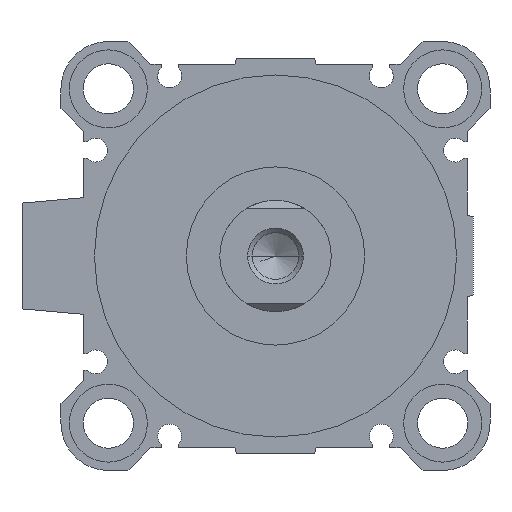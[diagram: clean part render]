
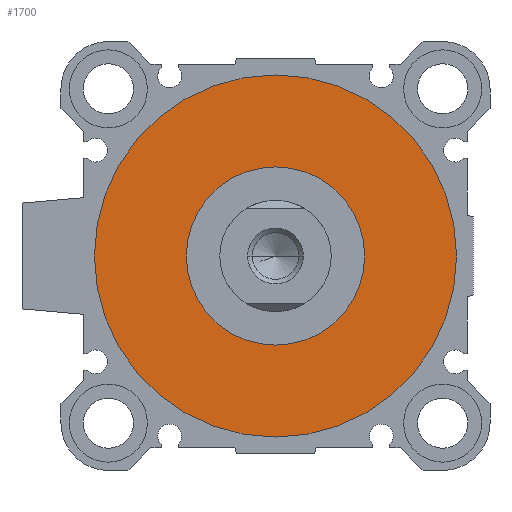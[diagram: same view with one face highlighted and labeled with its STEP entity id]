
A CAD part, left-side view. The second image highlights one B-rep face of the part: STEP entity #1700.
In plain terms, the highlighted planar face has unit normal (-1, 0, 0).
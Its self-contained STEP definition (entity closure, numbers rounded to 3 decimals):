
#52 = VERTEX_POINT ( 'NONE', #5285 ) ;
#53 = CARTESIAN_POINT ( 'NONE',  ( 4., 0., 16. ) ) ;
#130 = DIRECTION ( 'NONE',  ( 1., 0., 0. ) ) ;
#134 = EDGE_CURVE ( 'NONE', #2482, #2198, #4401, .T. ) ;
#224 = ORIENTED_EDGE ( 'NONE', *, *, #2374, .T. ) ;
#445 = CIRCLE ( 'NONE', #1141, 16. ) ;
#535 = CARTESIAN_POINT ( 'NONE',  ( 4., 0., 0. ) ) ;
#661 = VERTEX_POINT ( 'NONE', #3072 ) ;
#732 = DIRECTION ( 'NONE',  ( 1., 0., 0. ) ) ;
#1141 = AXIS2_PLACEMENT_3D ( 'NONE', #3653, #1557, #4974 ) ;
#1253 = CARTESIAN_POINT ( 'NONE',  ( 4., 0., 0. ) ) ;
#1369 = CARTESIAN_POINT ( 'NONE',  ( 4., 0., -16. ) ) ;
#1377 = EDGE_CURVE ( 'NONE', #661, #52, #3705, .T. ) ;
#1557 = DIRECTION ( 'NONE',  ( 1., 0., 0. ) ) ;
#1700 = ADVANCED_FACE ( 'NONE', ( #3830, #5095 ), #4739, .F. ) ;
#1756 = CARTESIAN_POINT ( 'NONE',  ( 4., 0., 0. ) ) ;
#1949 = ORIENTED_EDGE ( 'NONE', *, *, #134, .T. ) ;
#2198 = VERTEX_POINT ( 'NONE', #1369 ) ;
#2368 = CARTESIAN_POINT ( 'NONE',  ( 4., 0., 0. ) ) ;
#2374 = EDGE_CURVE ( 'NONE', #2198, #2482, #445, .T. ) ;
#2482 = VERTEX_POINT ( 'NONE', #53 ) ;
#2558 = DIRECTION ( 'NONE',  ( 0., 1., 0. ) ) ;
#3072 = CARTESIAN_POINT ( 'NONE',  ( 4., 0., -32.5 ) ) ;
#3080 = AXIS2_PLACEMENT_3D ( 'NONE', #1756, #4650, #5007 ) ;
#3113 = DIRECTION ( 'NONE',  ( 0., 0., -1. ) ) ;
#3179 = AXIS2_PLACEMENT_3D ( 'NONE', #1253, #130, #3811 ) ;
#3442 = DIRECTION ( 'NONE',  ( 1., 0., 0. ) ) ;
#3653 = CARTESIAN_POINT ( 'NONE',  ( 4., 0., 0. ) ) ;
#3705 = CIRCLE ( 'NONE', #4940, 32.5 ) ;
#3811 = DIRECTION ( 'NONE',  ( 0., 0., -1. ) ) ;
#3830 = FACE_OUTER_BOUND ( 'NONE', #4435, .T. ) ;
#4401 = CIRCLE ( 'NONE', #3080, 16. ) ;
#4435 = EDGE_LOOP ( 'NONE', ( #4684, #4912 ) ) ;
#4650 = DIRECTION ( 'NONE',  ( 1., 0., 0. ) ) ;
#4683 = EDGE_CURVE ( 'NONE', #52, #661, #5026, .T. ) ;
#4684 = ORIENTED_EDGE ( 'NONE', *, *, #4683, .F. ) ;
#4739 = PLANE ( 'NONE',  #5071 ) ;
#4912 = ORIENTED_EDGE ( 'NONE', *, *, #1377, .F. ) ;
#4940 = AXIS2_PLACEMENT_3D ( 'NONE', #2368, #732, #3113 ) ;
#4974 = DIRECTION ( 'NONE',  ( 0., 0., -1. ) ) ;
#5007 = DIRECTION ( 'NONE',  ( 0., 0., -1. ) ) ;
#5026 = CIRCLE ( 'NONE', #3179, 32.5 ) ;
#5062 = EDGE_LOOP ( 'NONE', ( #1949, #224 ) ) ;
#5071 = AXIS2_PLACEMENT_3D ( 'NONE', #535, #3442, #2558 ) ;
#5095 = FACE_BOUND ( 'NONE', #5062, .T. ) ;
#5285 = CARTESIAN_POINT ( 'NONE',  ( 4., 0., 32.5 ) ) ;
